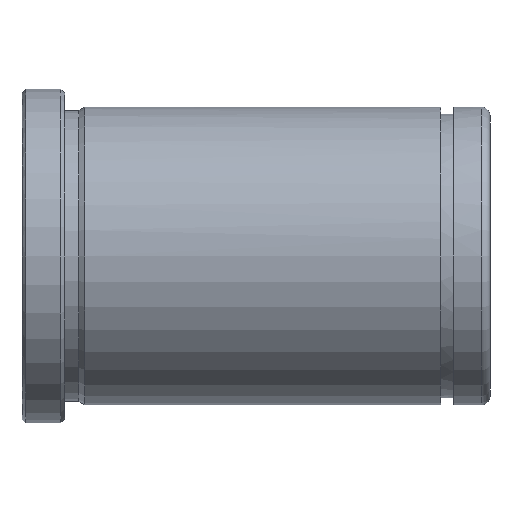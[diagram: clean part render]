
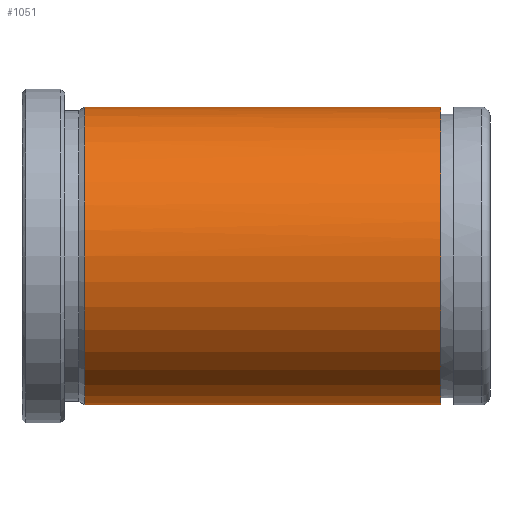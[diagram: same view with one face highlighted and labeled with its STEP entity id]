
A CAD part, front view. The second image highlights one B-rep face of the part: STEP entity #1051.
In plain terms, the highlighted cylindrical face has radius 21 mm (diameter 42 mm), a partial arc.
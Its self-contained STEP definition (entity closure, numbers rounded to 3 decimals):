
#851=CARTESIAN_POINT('Vertex',(8.866,0.,-21.)) ;
#858=CARTESIAN_POINT('Vertex',(8.866,0.,21.)) ;
#887=CARTESIAN_POINT('Axis2P3D Location',(8.866,0.,0.)) ;
#891=CARTESIAN_POINT('Vertex',(8.866,-21.,0.)) ;
#894=CARTESIAN_POINT('Axis2P3D Location',(8.866,0.,0.)) ;
#985=CARTESIAN_POINT('Line Origine',(132.,0.,21.)) ;
#989=CARTESIAN_POINT('Vertex',(59.05,0.,21.)) ;
#1006=CARTESIAN_POINT('Vertex',(59.05,0.,-21.)) ;
#1009=CARTESIAN_POINT('Line Origine',(132.,0.,-21.)) ;
#1023=CARTESIAN_POINT('Axis2P3D Location',(132.,0.,0.)) ;
#1028=CARTESIAN_POINT('Axis2P3D Location',(59.05,0.,0.)) ;
#1032=CARTESIAN_POINT('Vertex',(59.05,-21.,0.)) ;
#1036=CARTESIAN_POINT('Control Point',(59.05,0.,21.)) ;
#1037=CARTESIAN_POINT('Control Point',(59.05,-6.597,21.)) ;
#1038=CARTESIAN_POINT('Control Point',(59.05,-13.201,18.417)) ;
#1039=CARTESIAN_POINT('Control Point',(59.05,-18.417,13.201)) ;
#1040=CARTESIAN_POINT('Control Point',(59.05,-21.,6.597)) ;
#1041=CARTESIAN_POINT('Control Point',(59.05,-21.,0.)) ;
#888=DIRECTION('Axis2P3D Direction',(1.,0.,-0.)) ;
#895=DIRECTION('Axis2P3D Direction',(1.,0.,-0.)) ;
#986=DIRECTION('Vector Direction',(-1.,0.,0.)) ;
#1010=DIRECTION('Vector Direction',(-1.,0.,0.)) ;
#1024=DIRECTION('Axis2P3D Direction',(-1.,-0.,-0.)) ;
#1025=DIRECTION('Axis2P3D XDirection',(0.,0.,-1.)) ;
#1029=DIRECTION('Axis2P3D Direction',(-1.,-0.,-0.)) ;
#889=AXIS2_PLACEMENT_3D('Circle Axis2P3D',#887,#888,$) ;
#896=AXIS2_PLACEMENT_3D('Circle Axis2P3D',#894,#895,$) ;
#1026=AXIS2_PLACEMENT_3D('Cylinder Axis2P3D',#1023,#1024,#1025) ;
#1030=AXIS2_PLACEMENT_3D('Circle Axis2P3D',#1028,#1029,$) ;
#1044=ORIENTED_EDGE('',*,*,#1013,.T.) ;
#1045=ORIENTED_EDGE('',*,*,#1034,.F.) ;
#1046=ORIENTED_EDGE('',*,*,#1042,.F.) ;
#1047=ORIENTED_EDGE('',*,*,#991,.T.) ;
#1048=ORIENTED_EDGE('',*,*,#898,.T.) ;
#1049=ORIENTED_EDGE('',*,*,#893,.T.) ;
#987=VECTOR('Line Direction',#986,1.) ;
#1011=VECTOR('Line Direction',#1010,1.) ;
#1051=ADVANCED_FACE('553-32X66',(#1050),#1027,.T.) ;
#1035=B_SPLINE_CURVE_WITH_KNOTS('',5,(#1036,#1037,#1038,#1039,#1040,#1041),.UNSPECIFIED.,.F.,.U.,(6,6),(-16.493,16.493),.UNSPECIFIED.) ;
#890=CIRCLE('generated circle',#889,21.) ;
#897=CIRCLE('generated circle',#896,21.) ;
#1031=CIRCLE('generated circle',#1030,21.) ;
#1027=CYLINDRICAL_SURFACE('generated cylinder',#1026,21.) ;
#893=EDGE_CURVE('',#892,#852,#890,.T.) ;
#898=EDGE_CURVE('',#859,#892,#897,.T.) ;
#991=EDGE_CURVE('',#990,#859,#988,.T.) ;
#1013=EDGE_CURVE('',#852,#1007,#1012,.F.) ;
#1034=EDGE_CURVE('',#1033,#1007,#1031,.F.) ;
#1042=EDGE_CURVE('',#990,#1033,#1035,.T.) ;
#1043=EDGE_LOOP('',(#1044,#1045,#1046,#1047,#1048,#1049)) ;
#1050=FACE_OUTER_BOUND('',#1043,.T.) ;
#988=LINE('Line',#985,#987) ;
#1012=LINE('Line',#1009,#1011) ;
#852=VERTEX_POINT('',#851) ;
#859=VERTEX_POINT('',#858) ;
#892=VERTEX_POINT('',#891) ;
#990=VERTEX_POINT('',#989) ;
#1007=VERTEX_POINT('',#1006) ;
#1033=VERTEX_POINT('',#1032) ;
